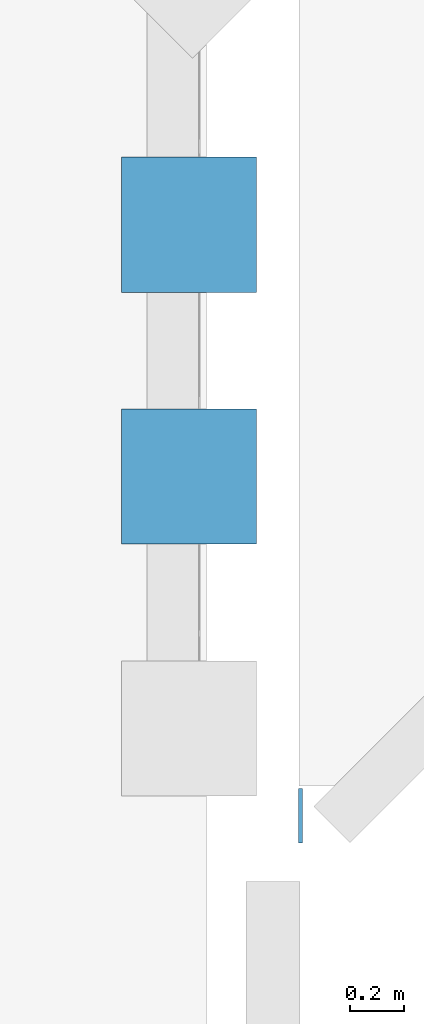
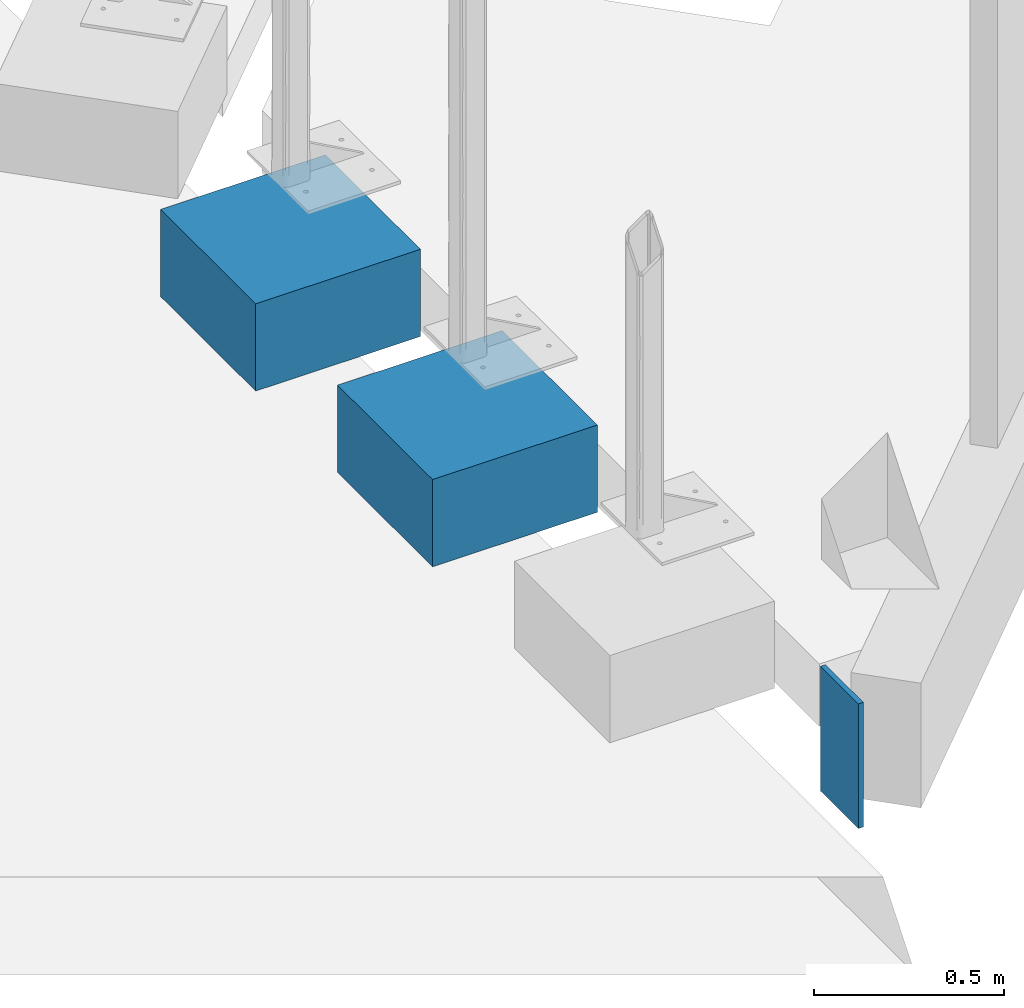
# One storey, part 2 of 37: 3 beams.
"""IFC4X3_ADD2 building model written with IfcOpenShell, lengths in millimetres."""

from ifc_helpers import new_model, si_unit, direction, frame, frame_2d, origin_with_axes, place, context, subcontext, project, spatial, rectangle, extrude, source, transform, mapped, material, type_object, type_shapes, element, save


model = new_model("IFC4X3_ADD2")

# Units and contexts
model_context = context("Model", 3, precision=1e-05, world=origin_with_axes(), true_north=direction((0.0, 1.0)))
body_context = subcontext(model_context, "Body", "Model", "MODEL_VIEW")
ifc_project = project(units=[si_unit("LENGTHUNIT", "METRE", prefix="MILLI"), si_unit("AREAUNIT", "SQUARE_METRE"), si_unit("VOLUMEUNIT", "CUBIC_METRE"), si_unit("PLANEANGLEUNIT", "RADIAN"), si_unit("TIMEUNIT", "SECOND"), si_unit("MASSUNIT", "GRAM")], contexts=[model_context])

# Site, building, storey
site_placement = place(None, origin_with_axes())
site = spatial("IfcSite", under=ifc_project, at=site_placement, Name="Site", CompositionType="ELEMENT")
building_placement = place(site_placement, origin_with_axes())
building = spatial("IfcBuilding", under=site, at=building_placement, Name="IFC Building Story")
storey_placement = place(building_placement, frame((0.0, 0.0, 14400.0), z_axis=(0.0, 0.0, 1.0), x_axis=(1.0, 0.0, 0.0)))
storey = spatial("IfcBuildingStorey", under=building, at=storey_placement, Name="040", Elevation=14400.0)

# Beams
ifc_material = material(Name="BB_Beton_Bestaand")
beam_type_1 = type_object("IfcBeamType", Name="BB_XX_Betonbalk_ rechthoekig_ center-center_SFB_500 x 280 mm", PredefinedType="NOTDEFINED")
shared_shape_1 = source(origin_with_axes(), body_context, "Body", "SweptSolid", [
    extrude(rectangle(XDim=500.0, YDim=500.000000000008, at=frame_2d((0.0, 0.0), x_axis=(0.0, 1.0))), frame((1.542224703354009, 0.0, -140.0), z_axis=(0.0, 0.0, 1.0), x_axis=(1.0, 0.0, 0.0)), (0.0, 0.0, 1.0), 280.0),
])
type_shapes(beam_type_1, [shared_shape_1])
for number, where, z_axis, x_axis in (
    (1, (-39010.0, 25697.5526727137, -60.0), (0.0, 0.0, 1.0), (0.0, 1.0, 0.0)),
    (2, (-39010.0, 26627.5526727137, -60.0), (0.0, 0.0, 1.0), (0.0, 1.0, 0.0)),
):
    element("IfcBeam", number, at=place(storey_placement, frame(where, z_axis=z_axis, x_axis=x_axis)), inside=storey, type_object=beam_type_1, material=ifc_material, Name="BB_XX_Betonbalk, rechthoekig, center-center_SFB:500 x 280 mm", ObjectType="500 x 280 mm", PredefinedType="BEAM", context=body_context, shape_type="MappedRepresentation", body=[
        mapped(shared_shape_1, transform((0.0, 0.0, 0.0))),
    ])
beam_type_2 = type_object("IfcBeamType", Name="BB_XX_Betonbalk_ rechthoekig_ center-center_SFB_200 x 400 mm11", PredefinedType="NOTDEFINED")
shared_shape_2 = source(origin_with_axes(), body_context, "Body", "SweptSolid", [
    extrude(rectangle(XDim=200.0, YDim=15.20983970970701, at=frame_2d((0.0, 0.0), x_axis=(0.0, 1.0))), frame((-38597.39508014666, 24445.0, 13800.0), z_axis=(0.0, 0.0, 1.0), x_axis=(1.0, 0.0, 0.0)), (0.0, 0.0, 1.0), 400.0),
])
type_shapes(beam_type_2, [shared_shape_2])
beam_placement = place(storey_placement, frame((0.0, 0.0, -14400.0), z_axis=(0.0, 0.0, 1.0), x_axis=(1.0, 0.0, 0.0)))
element("IfcBeam", 3, at=beam_placement, inside=storey, type_object=beam_type_2, material=ifc_material, Name="BB_XX_Betonbalk, rechthoekig, center-center_SFB:200 x 400 mm", ObjectType="200 mm x 400 mm", PredefinedType="BEAM", context=body_context, shape_type="MappedRepresentation", body=[
    mapped(shared_shape_2, transform((0.0, 0.0, 0.0))),
])

save(model, "model.ifc")
